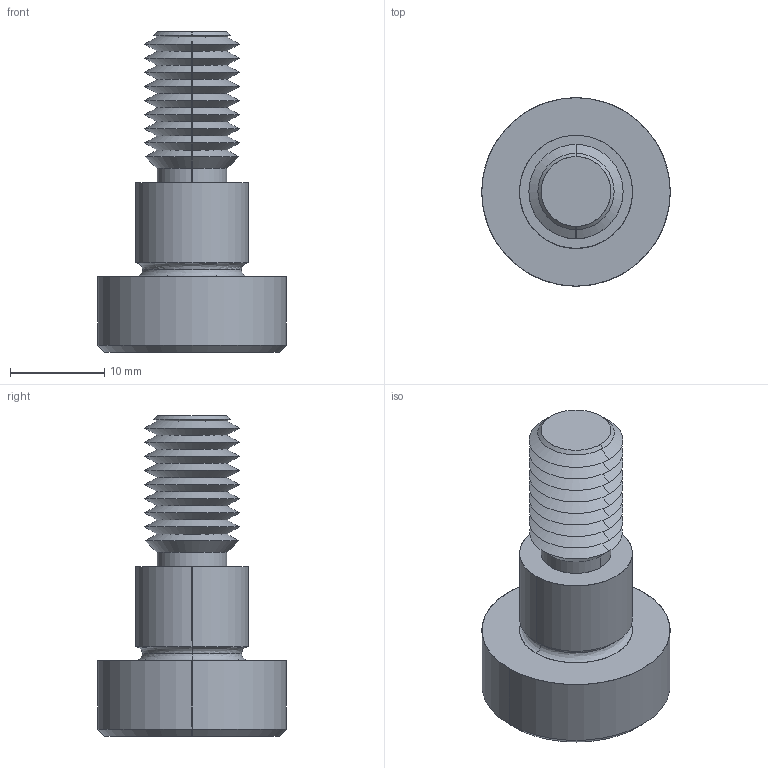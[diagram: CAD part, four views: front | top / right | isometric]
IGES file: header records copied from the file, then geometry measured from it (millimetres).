
Start section: SolidWorks IGES file using analytic representation for surfaces
Global section: file name: C:\Users\IanO\Documents\Temp Folder\GENERAL\SCREW REVISION\P0130_v2\P0130.T5_v2_20220106_IGES\P0130.120-010-T5.igs; native system: SolidWorks 2019; preprocessor: SolidWorks 2019; author: IanO; date: 220106.224436; units: millimetre
Bounding box: 20 x 20 x 34 mm (x, y, z)
Surface area: 2431.4 mm2 (no closed solid volume)
Topology: 0 solids, 0 shells, 76 faces, 564 edges, 562 vertices
Faces by surface type: revolution 56, bspline 20
